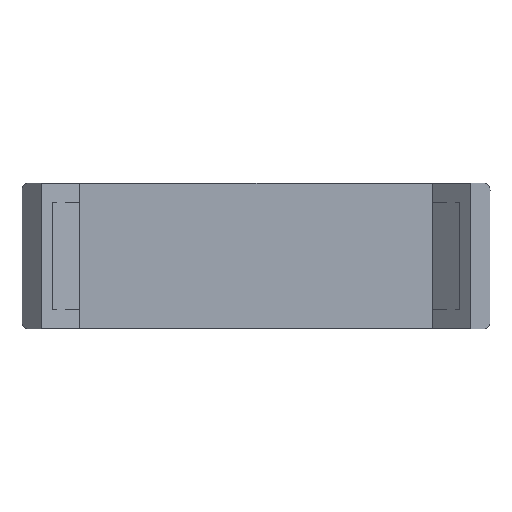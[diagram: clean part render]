
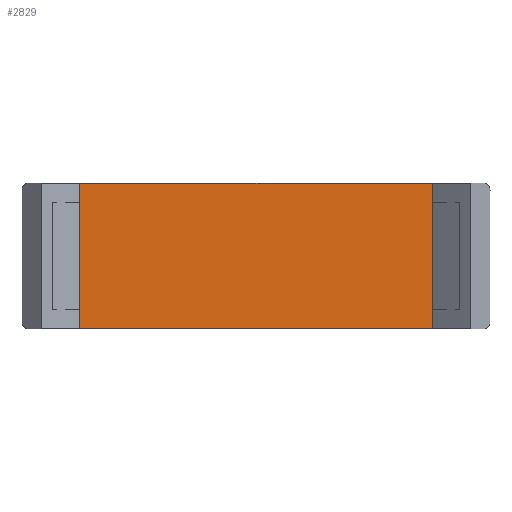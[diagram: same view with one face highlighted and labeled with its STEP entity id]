
A CAD part, top view. The second image highlights one B-rep face of the part: STEP entity #2829.
In plain terms, the highlighted planar face has unit normal (0, 0, 1).
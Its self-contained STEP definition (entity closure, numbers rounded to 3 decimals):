
#69 = VERTEX_POINT ( 'NONE', #3308 ) ;
#271 = CARTESIAN_POINT ( 'NONE',  ( 23., -9.88, -0.75 ) ) ;
#619 = CARTESIAN_POINT ( 'NONE',  ( 23., -9.88, -0.75 ) ) ;
#673 = EDGE_LOOP ( 'NONE', ( #3048, #5337, #9884, #1620, #4435, #2102, #8579, #6586 ) ) ;
#701 = VERTEX_POINT ( 'NONE', #10460 ) ;
#870 = VECTOR ( 'NONE', #9487, 1000. ) ;
#996 = VERTEX_POINT ( 'NONE', #3146 ) ;
#1217 = VECTOR ( 'NONE', #8299, 1000. ) ;
#1495 = VERTEX_POINT ( 'NONE', #5984 ) ;
#1620 = ORIENTED_EDGE ( 'NONE', *, *, #1848, .F. ) ;
#1848 = EDGE_CURVE ( 'NONE', #2366, #5925, #7164, .T. ) ;
#2039 = DIRECTION ( 'NONE',  ( 0., -1., 0. ) ) ;
#2063 = DIRECTION ( 'NONE',  ( 0., 0., -1. ) ) ;
#2102 = ORIENTED_EDGE ( 'NONE', *, *, #8766, .F. ) ;
#2187 = LINE ( 'NONE', #2239, #870 ) ;
#2239 = CARTESIAN_POINT ( 'NONE',  ( 0., -9.5, -0.75 ) ) ;
#2366 = VERTEX_POINT ( 'NONE', #4905 ) ;
#2419 = EDGE_CURVE ( 'NONE', #1495, #701, #3457, .T. ) ;
#2829 = ADVANCED_FACE ( 'NONE', ( #9418 ), #8559, .F. ) ;
#2991 = LINE ( 'NONE', #619, #4445 ) ;
#3023 = LINE ( 'NONE', #10377, #6699 ) ;
#3040 = CARTESIAN_POINT ( 'NONE',  ( -23., -9.88, -0.75 ) ) ;
#3048 = ORIENTED_EDGE ( 'NONE', *, *, #7017, .F. ) ;
#3055 = EDGE_CURVE ( 'NONE', #6137, #7563, #4865, .T. ) ;
#3069 = VECTOR ( 'NONE', #3171, 1000. ) ;
#3146 = CARTESIAN_POINT ( 'NONE',  ( 23., -9.5, -0.75 ) ) ;
#3171 = DIRECTION ( 'NONE',  ( 0., -1., 0. ) ) ;
#3207 = DIRECTION ( 'NONE',  ( 0., 1., 0. ) ) ;
#3308 = CARTESIAN_POINT ( 'NONE',  ( 23., -7., -0.75 ) ) ;
#3457 = LINE ( 'NONE', #271, #6872 ) ;
#3460 = CARTESIAN_POINT ( 'NONE',  ( 23., -9.88, -0.75 ) ) ;
#3625 = CARTESIAN_POINT ( 'NONE',  ( -23., 9.5, -0.75 ) ) ;
#3957 = AXIS2_PLACEMENT_3D ( 'NONE', #10335, #2063, #10392 ) ;
#4435 = ORIENTED_EDGE ( 'NONE', *, *, #6931, .F. ) ;
#4445 = VECTOR ( 'NONE', #9639, 1000. ) ;
#4865 = LINE ( 'NONE', #9687, #7400 ) ;
#4905 = CARTESIAN_POINT ( 'NONE',  ( -23., -9.5, -0.75 ) ) ;
#5337 = ORIENTED_EDGE ( 'NONE', *, *, #3055, .F. ) ;
#5826 = LINE ( 'NONE', #3460, #3069 ) ;
#5925 = VERTEX_POINT ( 'NONE', #7651 ) ;
#5984 = CARTESIAN_POINT ( 'NONE',  ( 23., 9.5, -0.75 ) ) ;
#6137 = VERTEX_POINT ( 'NONE', #8842 ) ;
#6313 = DIRECTION ( 'NONE',  ( 0., 1., 0. ) ) ;
#6586 = ORIENTED_EDGE ( 'NONE', *, *, #2419, .F. ) ;
#6614 = CARTESIAN_POINT ( 'NONE',  ( 0., 9.5, -0.75 ) ) ;
#6699 = VECTOR ( 'NONE', #6313, 1000. ) ;
#6872 = VECTOR ( 'NONE', #2039, 1000. ) ;
#6931 = EDGE_CURVE ( 'NONE', #996, #2366, #2187, .T. ) ;
#7017 = EDGE_CURVE ( 'NONE', #7563, #1495, #9867, .T. ) ;
#7164 = LINE ( 'NONE', #3040, #8331 ) ;
#7316 = DIRECTION ( 'NONE',  ( 0., 1., 0. ) ) ;
#7400 = VECTOR ( 'NONE', #7316, 1000. ) ;
#7563 = VERTEX_POINT ( 'NONE', #3625 ) ;
#7651 = CARTESIAN_POINT ( 'NONE',  ( -23., -7., -0.75 ) ) ;
#8155 = EDGE_CURVE ( 'NONE', #701, #69, #2991, .T. ) ;
#8299 = DIRECTION ( 'NONE',  ( 1., 0., 0. ) ) ;
#8331 = VECTOR ( 'NONE', #3207, 1000. ) ;
#8559 = PLANE ( 'NONE',  #3957 ) ;
#8579 = ORIENTED_EDGE ( 'NONE', *, *, #8155, .F. ) ;
#8766 = EDGE_CURVE ( 'NONE', #69, #996, #5826, .T. ) ;
#8842 = CARTESIAN_POINT ( 'NONE',  ( -23., 7., -0.75 ) ) ;
#9096 = EDGE_CURVE ( 'NONE', #5925, #6137, #3023, .T. ) ;
#9418 = FACE_OUTER_BOUND ( 'NONE', #673, .T. ) ;
#9487 = DIRECTION ( 'NONE',  ( -1., 0., 0. ) ) ;
#9639 = DIRECTION ( 'NONE',  ( 0., -1., 0. ) ) ;
#9687 = CARTESIAN_POINT ( 'NONE',  ( -23., -9.88, -0.75 ) ) ;
#9867 = LINE ( 'NONE', #6614, #1217 ) ;
#9884 = ORIENTED_EDGE ( 'NONE', *, *, #9096, .F. ) ;
#10335 = CARTESIAN_POINT ( 'NONE',  ( 0., -9.88, -0.75 ) ) ;
#10377 = CARTESIAN_POINT ( 'NONE',  ( -23., -9.88, -0.75 ) ) ;
#10392 = DIRECTION ( 'NONE',  ( -1., 0., 0. ) ) ;
#10460 = CARTESIAN_POINT ( 'NONE',  ( 23., 7., -0.75 ) ) ;
